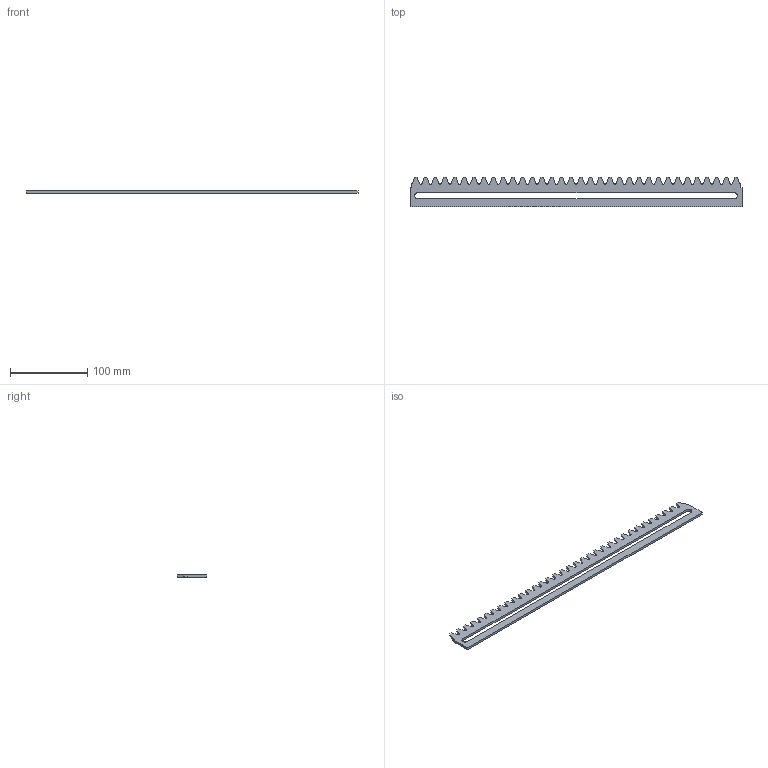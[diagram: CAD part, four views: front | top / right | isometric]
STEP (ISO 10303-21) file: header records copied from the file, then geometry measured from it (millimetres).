
FILE_DESCRIPTION (( 'STEP AP203' ), '1' );
FILE_NAME ('Crémaillère m=4 - 34 dents.STEP', '2025-09-19T13:25:34', ( '' ), ( '' ), 'SwSTEP 2.0', 'SolidWorks 2019', '' );
FILE_SCHEMA (( 'CONFIG_CONTROL_DESIGN' ));
Length unit declared in the file: millimetre
Products named in the file (1): Cr幦aill鋨e m=4 - 34 dents
Bounding box: 430 x 38.42 x 3 mm (x, y, z)
Volume: 34068.8 mm3; surface area: 29234.7 mm2
Topology: 1 solids, 1 shells, 219 faces, 651 edges, 434 vertices
Faces by surface type: plane 148, cylinder 71
Entity records: 7408 total; most frequent: CARTESIAN_POINT 1305, ORIENTED_EDGE 1302, DIRECTION 1233, EDGE_CURVE 651, VECTOR 509, LINE 509, VERTEX_POINT 434, AXIS2_PLACEMENT_3D 362
